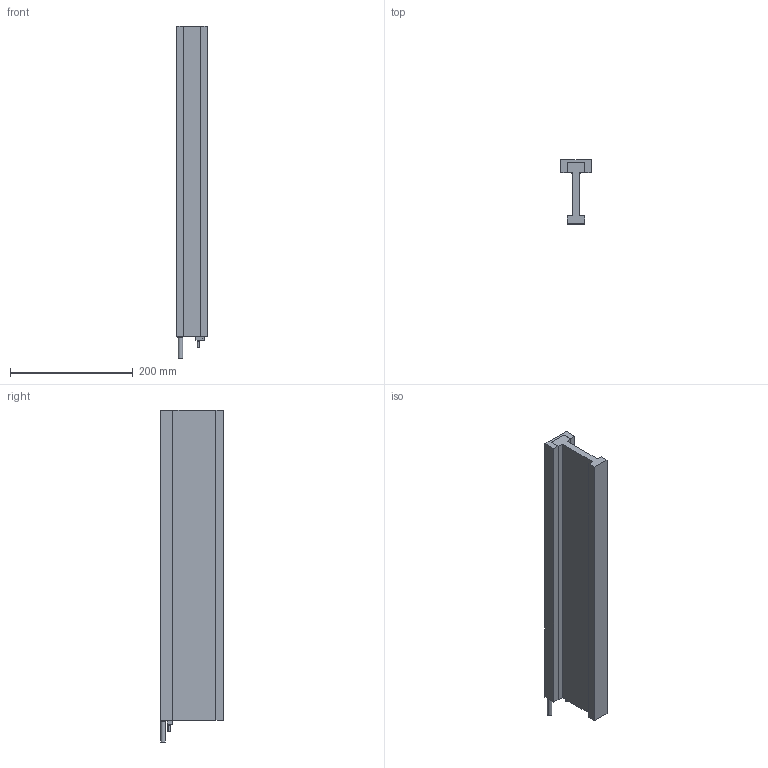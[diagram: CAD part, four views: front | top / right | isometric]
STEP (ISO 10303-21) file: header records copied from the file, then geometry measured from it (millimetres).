
FILE_DESCRIPTION (( 'STEP AP214' ), '1' );
FILE_NAME ('DX65F-C8.step', '2022-09-22T03:37:41', ( '' ), ( '' ), 'SwSTEP 2.0', 'SolidWorks 2020', '' );
FILE_SCHEMA (( 'AUTOMOTIVE_DESIGN' ));
Length unit declared in the file: millimetre
Products named in the file (1): DX65F-C8
Bounding box: 49 x 104 x 540 mm (x, y, z)
Volume: 1084008.9 mm3; surface area: 240025.2 mm2
Topology: 7 solids, 7 shells, 206 faces, 480 edges, 275 vertices
Faces by surface type: plane 80, cylinder 68, cone 50, torus 8
Entity records: 7942 total; most frequent: DIRECTION 1014, CARTESIAN_POINT 988, ORIENTED_EDGE 876, EDGE_CURVE 438, AXIS2_PLACEMENT_3D 373, VERTEX_POINT 275, LINE 268, VECTOR 268
